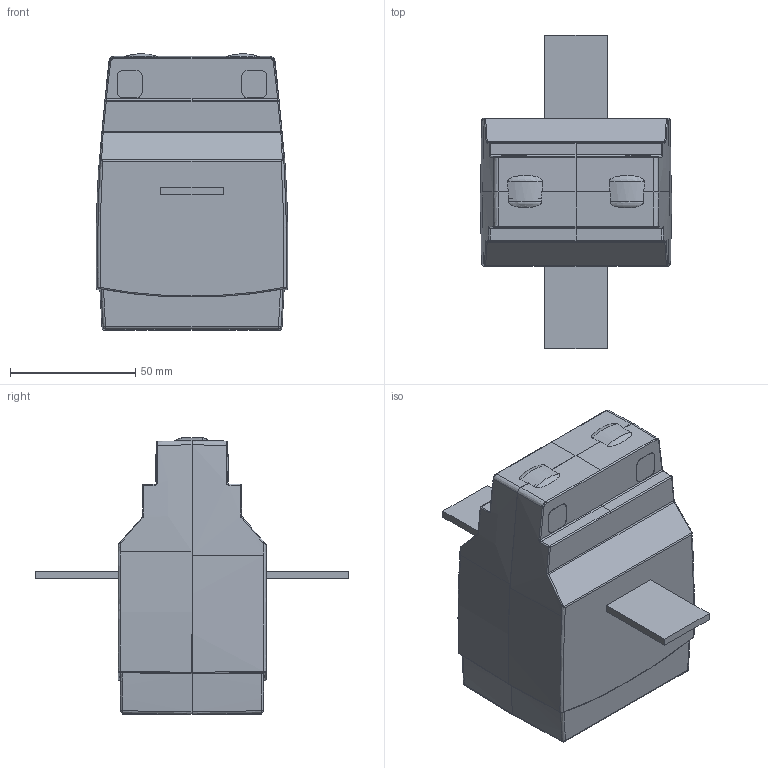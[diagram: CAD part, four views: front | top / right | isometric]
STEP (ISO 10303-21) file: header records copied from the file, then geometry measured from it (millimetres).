
FILE_DESCRIPTION(/* description */ (''),/* implementation_level */ '2;1');
FILE_NAME(/* name */ 'ENT.AB ASS.stp',/* time_stamp */ '2021-03-18T15:41:54+03:00',/* author */ (''),/* organization */ (''),/* preprocessor_version */ 'ST-DEVELOPER v16',/* originating_system */ 'SIEMENS PLM Software NX 11.0',/* authorisation */ '');
FILE_SCHEMA (('AUTOMOTIVE_DESIGN { 1 0 10303 214 3 1 1 1 }'));
Length unit declared in the file: millimetre
Products named in the file (1): ENT.AB ASS
Bounding box: 76.49 x 125 x 110.19 mm (x, y, z)
Volume: 408145.2 mm3; surface area: 37652.6 mm2
Topology: 1 solids, 1 shells, 213 faces, 521 edges, 303 vertices
Faces by surface type: plane 81, bspline 63, cylinder 37, torus 12, cone 10, sphere 8, extrusion 2
Entity records: 7104 total; most frequent: CARTESIAN_POINT 2718, ORIENTED_EDGE 1008, DIRECTION 779, EDGE_CURVE 504, VERTEX_POINT 303, AXIS2_PLACEMENT_3D 294, EDGE_LOOP 221, ADVANCED_FACE 213
